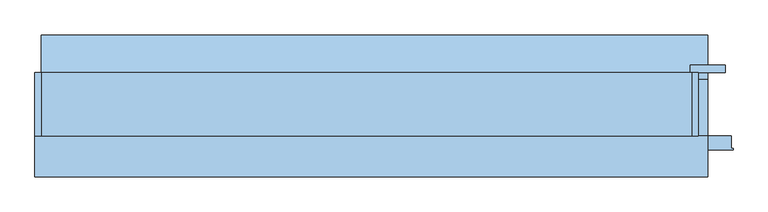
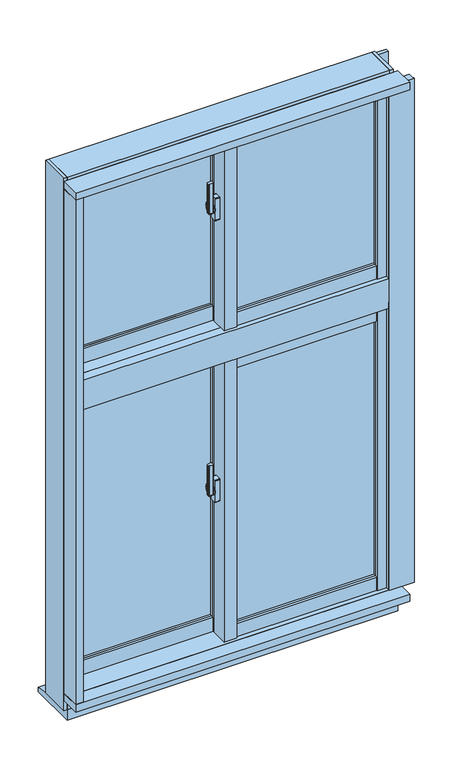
"""IFC4 building model written with IfcOpenShell, lengths in millimetres: window geometry, FNSⅡ100R_非防火_RC枠_段窓 : 引違/引違."""

from ifc_helpers import new_model, si_unit, point, frame, frame_2d, origin, place, context, project, spatial, polyline, circle_curve, trimmed, segment, composite_curve, outline, extrude, faceted_brep, source, transform, mapped, element, save
from ifc_brep_helpers import plane_surface, cylinder_surface, revolved_surface, advanced_brep


def window_982928b0(model_context):
    return source(origin(), model_context, "Body", "SolidModel", [
        extrude(outline(composite_curve([segment(polyline([(-39.0, -20.4), (-39.0, -28.6)]), True, "CONTINUOUS"), segment(trimmed(circle_curve(frame_2d((-41.0, -28.6)), 2.0), [point((-39.0, -28.6))], [point((-41.3606557, -30.5672131))], False, "CARTESIAN"), True, "CONTINUOUS"), segment(polyline([(-41.3606557, -30.5672131), (-52.3606557, -28.5505464)]), True, "CONTINUOUS"), segment(trimmed(circle_curve(frame_2d((-52.0, -26.5833333)), 2.0), [point((-52.3606557, -28.5505464))], [point((-54.0, -26.5833333))], False, "CARTESIAN"), True, "CONTINUOUS"), segment(polyline([(-54.0, -26.5833333), (-54.0, -22.4166667)]), True, "CONTINUOUS"), segment(trimmed(circle_curve(frame_2d((-52.0, -22.4166667)), 2.0), [point((-54.0, -22.4166667))], [point((-52.3606557, -20.4494536))], False, "CARTESIAN"), True, "CONTINUOUS"), segment(polyline([(-52.3606557, -20.4494536), (-41.3606557, -18.4327869)]), True, "CONTINUOUS"), segment(trimmed(circle_curve(frame_2d((-41.0, -20.4)), 2.0), [point((-41.3606557, -18.4327869))], [point((-39.0, -20.4))], False, "CARTESIAN"), True, "CONTINUOUS")], self_intersect=False)), frame((0.0, 0.0, 2340.0), z_axis=(0.0, 0.0, 1.0), x_axis=(1.0, 0.0, 0.0)), (0.0, 0.0, 1.0), 100.0),
        advanced_brep(
        [(-37.5, -16.1765715, 2371.7333311), (-45.5, -16.1765715, 2371.7333311), (-45.5, -16.5648001, 2370.2844424), (-39.0, -16.5648001, 2370.2844424), (-39.0, -18.3765334, 2363.5229616), (-37.5, -18.3765334, 2363.5229616), (-39.0, -18.3533883, 2329.3190372), (-45.5, -18.3533883, 2329.3190372), (-45.5, -18.092916, 2327.8418256), (-37.5, -18.092916, 2327.8418256), (-37.5, -19.5689255, 2336.2126915), (-39.0, -19.5689255, 2336.2126915)],
        [
            (0, 1),
            (1, 2),
            (2, 3),
            (3, 4),
            (4, 5),
            (5, 0),
            (6, 7),
            (7, 8),
            (8, 9),
            (9, 10),
            (10, 11),
            (11, 6),
            (0, 9, circle_curve(frame((-37.5, -22.0, 2350.0), z_axis=(-1.0, 0.0, 0.0), x_axis=(0.0, 0.25881904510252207, 0.965925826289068)), 22.5)),
            (8, 1, circle_curve(frame((-45.5, -22.0, 2350.0), z_axis=(1.0, 0.0, 0.0), x_axis=(0.0, 0.25881904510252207, 0.965925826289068)), 22.5)),
            (7, 2, circle_curve(frame((-45.5, -22.0, 2350.0), z_axis=(1.0, 0.0, 0.0), x_axis=(0.0, 0.25881904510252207, 0.965925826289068)), 21.0)),
            (6, 3, circle_curve(frame((-39.0, -22.0, 2350.0), z_axis=(1.0, 0.0, 0.0), x_axis=(0.0, 0.25881904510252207, 0.965925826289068)), 21.0)),
            (11, 4, circle_curve(frame((-39.0, -22.0, 2350.0), z_axis=(-1.0, 0.0, 0.0), x_axis=(0.0, -1.0, 0.0)), 14.0)),
            (5, 10, circle_curve(frame((-37.5, -22.0, 2350.0), z_axis=(1.0, 0.0, 0.0), x_axis=(0.0, -1.0, 0.0)), 14.0)),
        ],
        [
            plane_surface(frame((-43.5470497, -22.0, 2350.0), z_axis=(0.0, -0.965925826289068, 0.25881904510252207), x_axis=(0.0, 0.25881904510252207, 0.965925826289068))),
            plane_surface(frame((-43.5470497, -22.0, 2350.0), z_axis=(0.0, -0.9848077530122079, -0.17364817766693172), x_axis=(0.0, 0.17364817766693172, -0.9848077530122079))),
            cylinder_surface(frame((-43.5470497, -22.0, 2350.0), z_axis=(-1.0, 0.0, 0.0), x_axis=(0.0, 0.25881904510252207, 0.965925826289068)), 22.5),
            plane_surface(frame((-45.5, -22.0, 2350.0), z_axis=(-1.0, 0.0, 0.0), x_axis=(0.0, 0.25881904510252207, 0.965925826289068))),
            revolved_surface(polyline([(-45.5, -16.564800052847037, 2370.2844423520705), (-39.0, -16.564800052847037, 2370.2844423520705)]), (-43.5470497, -22.0, 2350.0), (-1.0, 0.0, 0.0)),
            plane_surface(frame((-39.0, -22.0, 2350.0), z_axis=(-1.0, 0.0, 0.0), x_axis=(0.0, 0.25881904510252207, 0.965925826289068))),
            plane_surface(frame((-37.5, -22.0, 2350.0), z_axis=(1.0, 0.0, 0.0), x_axis=(0.0, 0.25881904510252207, 0.965925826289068))),
            cylinder_surface(frame((-37.5, -22.0, 2350.0), z_axis=(-1.0, 0.0, 0.0), x_axis=(0.0, -1.0, 0.0)), 14.0),
        ],
        [
            (0, [[1, 2, 3, 4, 5, 6]]),
            (1, [[7, 8, 9, 10, 11, 12]]),
            (2, [[-1, 13, -9, 14]]),
            (3, [[-2, -14, -8, 15]]),
            (4, [[-3, -15, -7, 16]]),
            (5, [[-16, -12, 17, -4]]),
            (6, [[-13, -6, 18, -10]]),
            (7, [[-17, -11, -18, -5]]),
        ],
    ),
        extrude(outline(composite_curve([segment(trimmed(circle_curve(frame_2d((-22.0, 2350.0)), 11.5), [point((-10.5, 2350.0))], [point((-33.5, 2350.0))], False, "CARTESIAN"), True, "CONTINUOUS"), segment(trimmed(circle_curve(frame_2d((-22.0, 2350.0)), 11.5), [point((-33.5, 2350.0))], [point((-10.5, 2350.0))], False, "CARTESIAN"), True, "CONTINUOUS")], self_intersect=False)), frame((-37.5, 0.0, 0.0), z_axis=(1.0, 0.0, 0.0), x_axis=(0.0, 1.0, 0.0)), (0.0, 0.0, 1.0), 2.5),
        extrude(outline(composite_curve([segment(polyline([(-31.0, 2387.5), (-13.0, 2387.5)]), True, "CONTINUOUS"), segment(trimmed(circle_curve(frame_2d((-13.0, 2385.5)), 2.0), [point((-13.0, 2387.5))], [point((-11.0, 2385.5))], False, "CARTESIAN"), True, "CONTINUOUS"), segment(polyline([(-11.0, 2385.5), (-11.0, 2314.5)]), True, "CONTINUOUS"), segment(trimmed(circle_curve(frame_2d((-13.0, 2314.5)), 2.0), [point((-11.0, 2314.5))], [point((-13.0, 2312.5))], False, "CARTESIAN"), True, "CONTINUOUS"), segment(polyline([(-13.0, 2312.5), (-31.0, 2312.5)]), True, "CONTINUOUS"), segment(trimmed(circle_curve(frame_2d((-31.0, 2314.5)), 2.0), [point((-31.0, 2312.5))], [point((-33.0, 2314.5))], False, "CARTESIAN"), True, "CONTINUOUS"), segment(polyline([(-33.0, 2314.5), (-33.0, 2385.5)]), True, "CONTINUOUS"), segment(trimmed(circle_curve(frame_2d((-31.0, 2385.5)), 2.0), [point((-33.0, 2385.5))], [point((-31.0, 2387.5))], False, "CARTESIAN"), True, "CONTINUOUS")], self_intersect=False)), frame((-35.0, 0.0, 0.0), z_axis=(1.0, 0.0, 0.0), x_axis=(0.0, 1.0, 0.0)), (0.0, 0.0, 1.0), 15.0),
        extrude(outline(polyline([(20.0, -31.0), (468.0, -31.0), (468.0, -37.0), (20.0, -37.0), (20.0, -31.0)])), frame((0.0, 0.0, 1998.0), z_axis=(0.0, 0.0, 1.0), x_axis=(1.0, 0.0, 0.0)), (0.0, 0.0, 1.0), 562.0),
        extrude(outline(polyline([(20.0, -13.0), (468.0, -13.0), (468.0, -19.0), (20.0, -19.0), (20.0, -13.0)])), frame((0.0, 0.0, 1998.0), z_axis=(0.0, 0.0, 1.0), x_axis=(1.0, 0.0, 0.0)), (0.0, 0.0, 1.0), 562.0),
        extrude(outline(polyline([(-468.0, 27.0), (-20.0, 27.0), (-20.0, 21.0), (-468.0, 21.0), (-468.0, 27.0)])), frame((0.0, 0.0, 1998.0), z_axis=(0.0, 0.0, 1.0), x_axis=(1.0, 0.0, 0.0)), (0.0, 0.0, 1.0), 562.0),
        extrude(outline(polyline([(-468.0, 45.0), (-20.0, 45.0), (-20.0, 39.0), (-468.0, 39.0), (-468.0, 45.0)])), frame((0.0, 0.0, 1998.0), z_axis=(0.0, 0.0, 1.0), x_axis=(1.0, 0.0, 0.0)), (0.0, 0.0, 1.0), 562.0),
        faceted_brep([(-500.0, 24.0, 2600.0), (-489.5, 24.0, 2600.0), (-489.5, 11.0, 2600.0), (-468.0, 11.0, 2600.0), (-468.0, 53.0, 2600.0), (-500.0, 53.0, 2600.0), (-468.0, 24.0, 1910.0), (-500.0, 24.0, 1910.0), (-500.0, 53.0, 1910.0), (-468.0, 53.0, 1910.0), (-468.0, 24.0, 1950.0), (-489.5, 24.0, 1950.0), (-489.5, 11.0, 1950.0), (-468.0, 11.0, 1950.0)], [[[0, 1, 2, 3, 4, 5]], [[6, 7, 8, 9]], [[1, 0, 7, 6, 10, 11]], [[2, 1, 11, 12]], [[3, 2, 12, 13]], [[4, 3, 13, 10, 6, 9]], [[5, 4, 9, 8]], [[7, 0, 5, 8]], [[11, 10, 13, 12]]]),
        faceted_brep([(-20.0, 10.5, 2600.0), (-1.8, 10.5, 2600.0), (-1.8, -1.9, 2600.0), (20.0, -1.9, 2600.0), (20.0, 53.0, 2600.0), (-20.0, 53.0, 2600.0), (-20.0, 53.0, 1910.0), (20.0, 53.0, 1910.0), (20.0, 24.0, 1910.0), (-20.0, 24.0, 1910.0), (-20.0, 10.5, 1950.0), (-1.8, 10.5, 1950.0), (-1.8, -1.9, 1950.0), (20.0, -1.9, 1950.0), (20.0, 24.0, 1950.0), (-20.0, 24.0, 1950.0)], [[[0, 1, 2, 3, 4, 5]], [[6, 7, 8, 9]], [[1, 0, 10, 11]], [[2, 1, 11, 12]], [[3, 2, 12, 13]], [[4, 3, 13, 14, 8, 7]], [[5, 4, 7, 6]], [[0, 5, 6, 9, 15, 10]], [[14, 15, 9, 8]], [[15, 14, 13, 12, 11, 10]]]),
        extrude(outline(polyline([(-20.0, -1.9), (-15.0, -1.9), (-15.0, -47.0), (15.0, -47.0), (15.0, -43.0), (20.0, -43.0), (20.0, -55.0), (-20.0, -55.0), (-20.0, -1.9)])), frame((0.0, 0.0, 1950.0), z_axis=(0.0, 0.0, 1.0), x_axis=(1.0, 0.0, 0.0)), (0.0, 0.0, 1.0), 650.0),
        extrude(outline(polyline([(-15.0, -1.9), (20.0, -1.9), (20.0, -43.0), (15.0, -43.0), (15.0, -47.0), (-15.0, -47.0), (-15.0, -1.9)])), frame((0.0, 0.0, 1950.0), z_axis=(0.0, 0.0, 1.0), x_axis=(1.0, 0.0, 0.0)), (0.0, 0.0, 1.0), 650.0),
        extrude(outline(polyline([(468.0, -55.0), (468.0, -47.0), (489.5, -47.0), (489.5, -34.0), (497.0, -34.0), (497.0, -55.0), (468.0, -55.0)])), frame((0.0, 0.0, 1953.0), z_axis=(0.0, 0.0, 1.0), x_axis=(1.0, 0.0, 0.0)), (0.0, 0.0, 1.0), 647.0),
        extrude(outline(polyline([(468.0, -5.0), (500.0, -5.0), (500.0, -34.0), (489.5, -34.0), (489.5, -47.0), (468.0, -47.0), (468.0, -5.0)])), frame((0.0, 0.0, 1950.0), z_axis=(0.0, 0.0, 1.0), x_axis=(1.0, 0.0, 0.0)), (0.0, 0.0, 1.0), 650.0),
        extrude(outline(polyline([(-1.85, 10.5), (-1.85, 3.0), (-20.0, 3.0), (-20.0, 10.5), (-1.85, 10.5)])), frame((0.0, 0.0, 1950.0), z_axis=(0.0, 0.0, 1.0), x_axis=(1.0, 0.0, 0.0)), (0.0, 0.0, 1.0), 650.0),
        extrude(outline(polyline([(-497.0, 24.0), (-489.5, 24.0), (-489.5, 11.0), (-468.0, 11.0), (-468.0, 3.0), (-497.0, 3.0), (-497.0, 24.0)])), frame((0.0, 0.0, 1950.0), z_axis=(0.0, 0.0, 1.0), x_axis=(1.0, 0.0, 0.0)), (0.0, 0.0, 1.0), 650.0),
        extrude(outline(polyline([(-53.0, 1953.0), (-53.0, 1998.0), (-45.0, 1998.0), (-45.0, 1975.5), (-34.0, 1975.5), (-34.0, 1953.0), (-53.0, 1953.0)])), frame((20.0, 0.0, 0.0), z_axis=(1.0, 0.0, 0.0), x_axis=(0.0, 1.0, 0.0)), (0.0, 0.0, 1.0), 448.0),
        extrude(outline(polyline([(-5.0, 1950.0), (-34.0, 1950.0), (-34.0, 1975.5), (-45.0, 1975.5), (-45.0, 1998.0), (-5.0, 1998.0), (-5.0, 1950.0)])), frame((20.0, 0.0, 0.0), z_axis=(1.0, 0.0, 0.0), x_axis=(0.0, 1.0, 0.0)), (0.0, 0.0, 1.0), 448.0),
        extrude(outline(polyline([(5.0, 1998.0), (13.0, 1998.0), (13.0, 1975.5), (24.0, 1975.5), (24.0, 1950.0), (5.0, 1950.0), (5.0, 1998.0)])), frame((-468.0, 0.0, 0.0), z_axis=(1.0, 0.0, 0.0), x_axis=(0.0, 1.0, 0.0)), (0.0, 0.0, 1.0), 448.0),
        extrude(outline(polyline([(53.0, 1910.0), (24.0, 1910.0), (24.0, 1975.5), (13.0, 1975.5), (13.0, 1998.0), (53.0, 1998.0), (53.0, 1910.0)])), frame((-468.0, 0.0, 0.0), z_axis=(1.0, 0.0, 0.0), x_axis=(0.0, 1.0, 0.0)), (0.0, 0.0, 1.0), 448.0),
        extrude(outline(polyline([(-32.0, 2580.5), (-45.0, 2580.5), (-45.0, 2560.0), (-53.0, 2560.0), (-53.0, 2600.0), (-32.0, 2600.0), (-32.0, 2580.5)])), frame((20.0, 0.0, 0.0), z_axis=(1.0, 0.0, 0.0), x_axis=(0.0, 1.0, 0.0)), (0.0, 0.0, 1.0), 448.0),
        extrude(outline(polyline([(-5.0, 2600.0), (-5.0, 2560.0), (-45.0, 2560.0), (-45.0, 2580.5), (-32.0, 2580.5), (-32.0, 2600.0), (-5.0, 2600.0)])), frame((20.0, 0.0, 0.0), z_axis=(1.0, 0.0, 0.0), x_axis=(0.0, 1.0, 0.0)), (0.0, 0.0, 1.0), 448.0),
        extrude(outline(polyline([(26.0, 2580.5), (13.0, 2580.5), (13.0, 2560.0), (5.0, 2560.0), (5.0, 2600.0), (26.0, 2600.0), (26.0, 2580.5)])), frame((-468.0, 0.0, 0.0), z_axis=(1.0, 0.0, 0.0), x_axis=(0.0, 1.0, 0.0)), (0.0, 0.0, 1.0), 448.0),
        extrude(outline(polyline([(53.0, 2600.0), (53.0, 2560.0), (13.0, 2560.0), (13.0, 2580.5), (26.0, 2580.5), (26.0, 2600.0), (53.0, 2600.0)])), frame((-468.0, 0.0, 0.0), z_axis=(1.0, 0.0, 0.0), x_axis=(0.0, 1.0, 0.0)), (0.0, 0.0, 1.0), 448.0),
        faceted_brep([(500.0, -65.0, 900.0), (500.0, -40.5, 900.0), (515.0, -40.5, 900.0), (515.0, -45.0, 900.0), (503.0, -45.0, 900.0), (503.0, -65.0, 900.0), (500.0, -65.0, 1870.0), (500.0, -40.5, 1870.0), (515.0, -40.5, 1870.0), (515.0, -45.0, 1870.0), (503.0, -45.0, 1870.0), (503.0, -65.0, 1870.0)], [[[0, 1, 2, 3, 4, 5]], [[1, 0, 6, 7]], [[2, 1, 7, 8]], [[3, 2, 8, 9]], [[4, 3, 9, 10]], [[5, 4, 10, 11]], [[0, 5, 11, 6]], [[6, 11, 10, 9, 8, 7]]]),
        faceted_brep([(500.0, -45.0, 2620.0), (500.0, -40.5, 2620.0), (500.0, -40.5, 1950.0), (500.0, -65.0, 1950.0), (500.0, -65.0, 2603.0), (500.0, -45.0, 2603.0), (515.0, -40.5, 2620.0), (515.0, -40.5, 1950.0), (515.0, -45.0, 2620.0), (515.0, -45.0, 1950.0), (503.0, -45.0, 2603.0), (503.0, -45.0, 1950.0), (503.0, -65.0, 2603.0), (503.0, -65.0, 1950.0)], [[[0, 1, 2, 3, 4, 5]], [[1, 6, 7, 2]], [[6, 8, 9, 7]], [[5, 10, 11, 9, 8, 0]], [[10, 12, 13, 11]], [[12, 4, 3, 13]], [[8, 6, 1, 0]], [[10, 5, 4, 12]], [[13, 3, 2, 7, 9, 11]]]),
        faceted_brep([(515.0, 55.0, 840.0), (515.0, 55.0, 849.0), (515.0, 21.0, 849.0), (515.0, 21.0, 884.0), (515.0, -45.0, 884.0), (515.0, -45.0, 840.0), (-515.0, 55.0, 840.0), (-515.0, 55.0, 849.0), (-515.0, 21.0, 849.0), (-515.0, 21.0, 884.0), (-515.0, -45.0, 884.0), (500.0, -17.75, 884.0), (500.0, -36.2, 884.0), (-15.0, -36.2, 884.0), (-15.0, -17.75, 884.0), (-515.0, -45.0, 840.0), (500.0, -36.2, 900.0), (500.0, -17.75, 900.0), (-15.0, -36.2, 900.0), (-15.0, -17.75, 900.0)], [[[0, 1, 2, 3, 4, 5]], [[1, 0, 6, 7]], [[2, 1, 7, 8]], [[3, 2, 8, 9]], [[4, 3, 9, 10], [11, 12, 13, 14]], [[5, 4, 10, 15]], [[0, 5, 15, 6]], [[6, 15, 10, 9, 8, 7]], [[16, 12, 11, 17]], [[12, 16, 18, 13]], [[18, 19, 14, 13]], [[17, 11, 14, 19]], [[16, 17, 19, 18]]]),
        faceted_brep([(500.0, -36.2, 1950.0), (500.0, -36.2, 1934.0), (500.0, -17.75, 1934.0), (500.0, -17.75, 1950.0), (-15.0, -36.2, 1950.0), (-15.0, -17.75, 1950.0), (-15.0, -17.75, 1934.0), (-15.0, -36.2, 1934.0)], [[[0, 1, 2, 3]], [[4, 5, 6, 7]], [[1, 0, 4, 7]], [[2, 1, 7, 6]], [[3, 2, 6, 5]], [[0, 3, 5, 4]]]),
        faceted_brep([(-515.0, -45.0, 900.0), (-515.0, 21.0, 900.0), (-500.0, 21.0, 900.0), (-500.0, -65.0, 900.0), (-503.0, -65.0, 900.0), (-503.0, -45.0, 900.0), (-515.0, -45.0, 1870.0), (-515.0, 21.0, 1870.0), (-500.0, 21.0, 1870.0), (-500.0, -65.0, 1870.0), (-503.0, -65.0, 1870.0), (-503.0, -45.0, 1870.0)], [[[0, 1, 2, 3, 4, 5]], [[1, 0, 6, 7]], [[2, 1, 7, 8]], [[3, 2, 8, 9]], [[4, 3, 9, 10]], [[5, 4, 10, 11]], [[0, 5, 11, 6]], [[6, 11, 10, 9, 8, 7]]]),
        faceted_brep([(-515.0, -45.0, 2620.0), (-515.0, 21.0, 2620.0), (-515.0, 21.0, 1950.0), (-515.0, -45.0, 1950.0), (-500.0, 21.0, 2620.0), (-500.0, 21.0, 1950.0), (-500.0, -45.0, 2620.0), (-500.0, -45.0, 2603.0), (-500.0, -65.0, 2603.0), (-500.0, -65.0, 1950.0), (-503.0, -65.0, 2603.0), (-503.0, -65.0, 1950.0), (-503.0, -45.0, 2603.0), (-503.0, -45.0, 1950.0)], [[[0, 1, 2, 3]], [[1, 4, 5, 2]], [[4, 6, 7, 8, 9, 5]], [[8, 10, 11, 9]], [[10, 12, 13, 11]], [[12, 7, 6, 0, 3, 13]], [[4, 1, 0, 6]], [[7, 12, 10, 8]], [[13, 3, 2, 5, 9, 11]]]),
        faceted_brep([(-525.0, 55.0, 840.0), (-515.0, 55.0, 840.0), (-515.0, -45.0, 840.0), (-525.0, -45.0, 840.0), (-525.0, 55.0, 2635.0), (-515.0, 55.0, 2635.0), (-515.0, 55.0, 2600.0), (-500.0, 55.0, 2600.0), (-500.0, 55.0, 1899.0), (-515.0, 55.0, 1899.0), (-515.0, 55.0, 1850.0), (-500.0, 55.0, 1850.0), (-500.0, 55.0, 849.0), (-515.0, 55.0, 849.0), (-515.0, -45.0, 2635.0), (-515.0, 21.0, 849.0), (-515.0, 21.0, 1850.0), (-515.0, 21.0, 1899.0), (-515.0, 21.0, 2600.0), (-525.0, -45.0, 2635.0), (-500.0, 21.0, 849.0), (-500.0, 21.0, 1850.0), (-500.0, 21.0, 2600.0), (-500.0, 21.0, 1899.0)], [[[0, 1, 2, 3]], [[4, 5, 6, 7, 8, 9, 10, 11, 12, 13, 1, 0]], [[5, 14, 2, 1, 13, 15, 16, 10, 9, 17, 18, 6]], [[14, 19, 3, 2]], [[19, 4, 0, 3]], [[12, 20, 15, 13]], [[21, 16, 15, 20]], [[11, 21, 20, 12]], [[4, 19, 14, 5]], [[11, 10, 16, 21]], [[7, 6, 18, 22]], [[8, 23, 17, 9]], [[22, 18, 17, 23]], [[7, 22, 23, 8]]]),
        faceted_brep([(515.0, -45.0, 840.0), (515.0, 55.0, 840.0), (525.0, 55.0, 840.0), (525.0, -45.0, 840.0), (515.0, -45.0, 2635.0), (515.0, 55.0, 2635.0), (515.0, 55.0, 2600.0), (515.0, -40.5, 2600.0), (515.0, -40.5, 1899.0), (515.0, 55.0, 1899.0), (515.0, 55.0, 1850.0), (515.0, -40.5, 1850.0), (515.0, -40.5, 849.0), (515.0, 55.0, 849.0), (525.0, 55.0, 2635.0), (500.0, 55.0, 849.0), (500.0, 55.0, 1850.0), (500.0, 55.0, 1899.0), (500.0, 55.0, 2600.0), (525.0, -45.0, 2635.0), (500.0, -40.5, 849.0), (500.0, -40.5, 1850.0), (500.0, -40.5, 2600.0), (500.0, -40.5, 1899.0)], [[[0, 1, 2, 3]], [[4, 5, 6, 7, 8, 9, 10, 11, 12, 13, 1, 0]], [[5, 14, 2, 1, 13, 15, 16, 10, 9, 17, 18, 6]], [[14, 19, 3, 2]], [[19, 4, 0, 3]], [[20, 15, 13, 12]], [[21, 16, 15, 20]], [[11, 21, 20, 12]], [[4, 19, 14, 5]], [[21, 11, 10, 16]], [[22, 7, 6, 18]], [[23, 17, 9, 8]], [[7, 22, 23, 8]], [[22, 18, 17, 23]]]),
        faceted_brep([(503.0, -65.0, 900.0), (503.0, -65.0, 897.0), (503.0, -45.0, 897.0), (503.0, -45.0, 884.0), (503.0, -40.5, 884.0), (503.0, -40.5, 900.0), (-503.0, -45.0, 884.0), (-503.0, -45.0, 897.0), (-503.0, -65.0, 897.0), (-503.0, -65.0, 900.0), (-503.0, -36.2, 900.0), (-503.0, -36.2, 884.0), (500.0, -40.5, 900.0), (500.0, -36.2, 900.0), (-15.0, -36.2, 900.0), (-15.0, 21.0, 900.0), (-500.0, 21.0, 900.0), (-500.0, -36.2, 900.0), (-500.0, -36.2, 884.0), (500.0, -36.2, 884.0), (-15.0, -36.2, 884.0), (-500.0, 21.0, 884.0), (-15.0, 21.0, 884.0), (500.0, -40.5, 884.0)], [[[0, 1, 2, 3, 4, 5]], [[6, 7, 8, 9, 10, 11]], [[3, 2, 7, 6]], [[2, 1, 8, 7]], [[1, 0, 9, 8]], [[10, 9, 0, 5, 12, 13, 14, 15, 16, 17]], [[11, 10, 17, 18]], [[13, 19, 20, 14]], [[6, 11, 18, 21, 22, 20, 19, 23, 4, 3]], [[12, 23, 19, 13]], [[23, 12, 5, 4]], [[15, 14, 20, 22]], [[16, 21, 18, 17]], [[15, 22, 21, 16]]]),
        faceted_brep([(500.0, -23.1, 2600.0), (500.0, -23.1, 2625.0), (500.0, -45.0, 2625.0), (500.0, -45.0, 2603.0), (500.0, -65.0, 2603.0), (500.0, -65.0, 2600.0), (-500.0, -23.1, 2600.0), (-500.0, -65.0, 2600.0), (-500.0, -65.0, 2603.0), (-500.0, -45.0, 2603.0), (-500.0, -45.0, 2625.0), (-500.0, -23.1, 2625.0)], [[[0, 1, 2, 3, 4, 5]], [[6, 7, 8, 9, 10, 11]], [[1, 0, 6, 11]], [[2, 1, 11, 10]], [[3, 2, 10, 9]], [[4, 3, 9, 8]], [[5, 4, 8, 7]], [[0, 5, 7, 6]]]),
        faceted_brep([(500.0, -23.1, 1875.0), (500.0, -45.0, 1875.0), (500.0, -45.0, 1934.0), (500.0, -36.2, 1934.0), (500.0, -36.2, 1950.0), (500.0, -65.0, 1950.0), (500.0, -65.0, 1870.0), (500.0, -65.0, 1850.0), (500.0, -23.1, 1850.0), (500.0, -23.1, 1870.0), (-500.0, -23.1, 1850.0), (-500.0, -65.0, 1850.0), (-500.0, -65.0, 1870.0), (-500.0, -65.0, 1950.0), (-500.0, -36.2, 1950.0), (-500.0, -36.2, 1934.0), (-500.0, -45.0, 1934.0), (-500.0, -45.0, 1875.0), (-500.0, -23.1, 1875.0), (-500.0, -23.1, 1870.0)], [[[0, 1, 2, 3, 4, 5, 6, 7, 8, 9]], [[10, 11, 12, 13, 14, 15, 16, 17, 18, 19]], [[8, 10, 19, 18, 0, 9]], [[1, 0, 18, 17]], [[5, 13, 12, 11, 7, 6]], [[8, 7, 11, 10]], [[2, 1, 17, 16]], [[3, 2, 16, 15]], [[4, 3, 15, 14]], [[5, 4, 14, 13]]]),
        extrude(outline(polyline([(-15.0, 25.3), (-15.0, -23.1), (-500.0, -23.1), (-500.0, 25.3), (-15.0, 25.3)])), frame((0.0, 0.0, 2600.0), z_axis=(0.0, 0.0, 1.0), x_axis=(1.0, 0.0, 0.0)), (0.0, 0.0, 1.0), 25.0),
        extrude(outline(polyline([(-15.0, 21.0), (-15.0, -36.2), (-500.0, -36.2), (-500.0, 21.0), (-15.0, 21.0)])), frame((0.0, 0.0, 1934.0), z_axis=(0.0, 0.0, 1.0), x_axis=(1.0, 0.0, 0.0)), (0.0, 0.0, 1.0), 16.0),
        extrude(outline(polyline([(-15.0, 25.3), (-15.0, -23.1), (-500.0, -23.1), (-500.0, 25.3), (-15.0, 25.3)])), frame((0.0, 0.0, 1850.0), z_axis=(0.0, 0.0, 1.0), x_axis=(1.0, 0.0, 0.0)), (0.0, 0.0, 1.0), 25.0),
        faceted_brep([(515.0, 55.0, 2600.0), (515.0, 55.0, 2635.0), (515.0, -45.0, 2635.0), (515.0, -45.0, 2625.0), (515.0, 25.3, 2625.0), (515.0, 25.3, 2600.0), (-515.0, 55.0, 2600.0), (-515.0, 25.3, 2600.0), (-515.0, 25.3, 2625.0), (-515.0, -45.0, 2625.0), (-515.0, -45.0, 2635.0), (-515.0, 55.0, 2635.0), (-15.0, 25.3, 2625.0), (-15.0, -23.1, 2625.0), (500.0, -23.1, 2625.0), (500.0, 25.3, 2625.0), (500.0, 25.3, 2600.0), (-15.0, 25.3, 2600.0), (500.0, -23.1, 2600.0), (-15.0, -23.1, 2600.0)], [[[0, 1, 2, 3, 4, 5]], [[6, 7, 8, 9, 10, 11]], [[1, 0, 6, 11]], [[2, 1, 11, 10]], [[3, 2, 10, 9]], [[4, 3, 9, 8, 12, 13, 14, 15]], [[5, 4, 15, 16]], [[8, 7, 17, 12]], [[0, 5, 16, 18, 19, 17, 7, 6]], [[14, 18, 16, 15]], [[17, 19, 13, 12]], [[18, 14, 13, 19]]]),
        faceted_brep([(515.0, 55.0, 1850.0), (515.0, 55.0, 1899.0), (515.0, 21.0, 1899.0), (515.0, 21.0, 1934.0), (515.0, -45.0, 1934.0), (515.0, -45.0, 1875.0), (515.0, 25.3, 1875.0), (515.0, 25.3, 1850.0), (-515.0, 55.0, 1850.0), (-515.0, 25.3, 1850.0), (-515.0, 25.3, 1875.0), (-515.0, -45.0, 1875.0), (-515.0, -45.0, 1934.0), (-515.0, 21.0, 1934.0), (-515.0, 21.0, 1899.0), (-515.0, 55.0, 1899.0), (500.0, -23.1, 1850.0), (500.0, 25.3, 1850.0), (500.0, 25.3, 1870.0), (500.0, 25.3, 1875.0), (500.0, -23.1, 1875.0), (500.0, -23.1, 1870.0), (-15.0, 25.3, 1850.0), (-15.0, -23.1, 1850.0), (-15.0, -23.1, 1875.0), (-15.0, 25.3, 1875.0)], [[[0, 1, 2, 3, 4, 5, 6, 7]], [[8, 9, 10, 11, 12, 13, 14, 15]], [[16, 17, 18, 19, 20, 21]], [[22, 23, 24, 25]], [[1, 0, 8, 15]], [[2, 1, 15, 14]], [[3, 2, 14, 13]], [[4, 3, 13, 12]], [[5, 4, 12, 11]], [[6, 5, 11, 10, 25, 24, 20, 19]], [[7, 6, 19, 18, 17]], [[10, 9, 22, 25]], [[0, 7, 17, 16, 23, 22, 9, 8]], [[24, 23, 16, 21, 20]]]),
        extrude(outline(composite_curve([segment(polyline([(-39.0, -20.4), (-39.0, -28.6)]), True, "CONTINUOUS"), segment(trimmed(circle_curve(frame_2d((-41.0, -28.6)), 2.0), [point((-39.0, -28.6))], [point((-41.3606557, -30.5672131))], False, "CARTESIAN"), True, "CONTINUOUS"), segment(polyline([(-41.3606557, -30.5672131), (-52.3606557, -28.5505464)]), True, "CONTINUOUS"), segment(trimmed(circle_curve(frame_2d((-52.0, -26.5833333)), 2.0), [point((-52.3606557, -28.5505464))], [point((-54.0, -26.5833333))], False, "CARTESIAN"), True, "CONTINUOUS"), segment(polyline([(-54.0, -26.5833333), (-54.0, -22.4166667)]), True, "CONTINUOUS"), segment(trimmed(circle_curve(frame_2d((-52.0, -22.4166667)), 2.0), [point((-54.0, -22.4166667))], [point((-52.3606557, -20.4494536))], False, "CARTESIAN"), True, "CONTINUOUS"), segment(polyline([(-52.3606557, -20.4494536), (-41.3606557, -18.4327869)]), True, "CONTINUOUS"), segment(trimmed(circle_curve(frame_2d((-41.0, -20.4)), 2.0), [point((-41.3606557, -18.4327869))], [point((-39.0, -20.4))], False, "CARTESIAN"), True, "CONTINUOUS")], self_intersect=False)), frame((0.0, 0.0, 1390.0), z_axis=(0.0, 0.0, 1.0), x_axis=(1.0, 0.0, 0.0)), (0.0, 0.0, 1.0), 100.0),
        advanced_brep(
        [(-37.5, -16.1765715, 1421.7333311), (-45.5, -16.1765715, 1421.7333311), (-45.5, -16.5648001, 1420.2844424), (-39.0, -16.5648001, 1420.2844424), (-39.0, -18.3765334, 1413.5229616), (-37.5, -18.3765334, 1413.5229616), (-39.0, -18.3533883, 1379.3190372), (-45.5, -18.3533883, 1379.3190372), (-45.5, -18.092916, 1377.8418256), (-37.5, -18.092916, 1377.8418256), (-37.5, -19.5689255, 1386.2126915), (-39.0, -19.5689255, 1386.2126915)],
        [
            (0, 1),
            (1, 2),
            (2, 3),
            (3, 4),
            (4, 5),
            (5, 0),
            (6, 7),
            (7, 8),
            (8, 9),
            (9, 10),
            (10, 11),
            (11, 6),
            (0, 9, circle_curve(frame((-37.5, -22.0, 1400.0), z_axis=(-1.0, 0.0, 0.0), x_axis=(0.0, 0.25881904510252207, 0.965925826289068)), 22.5)),
            (8, 1, circle_curve(frame((-45.5, -22.0, 1400.0), z_axis=(1.0, 0.0, 0.0), x_axis=(0.0, 0.25881904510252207, 0.965925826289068)), 22.5)),
            (7, 2, circle_curve(frame((-45.5, -22.0, 1400.0), z_axis=(1.0, 0.0, 0.0), x_axis=(0.0, 0.25881904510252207, 0.965925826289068)), 21.0)),
            (6, 3, circle_curve(frame((-39.0, -22.0, 1400.0), z_axis=(1.0, 0.0, 0.0), x_axis=(0.0, 0.25881904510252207, 0.965925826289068)), 21.0)),
            (11, 4, circle_curve(frame((-39.0, -22.0, 1400.0), z_axis=(-1.0, 0.0, 0.0), x_axis=(0.0, -1.0, 0.0)), 14.0)),
            (5, 10, circle_curve(frame((-37.5, -22.0, 1400.0), z_axis=(1.0, 0.0, 0.0), x_axis=(0.0, -1.0, 0.0)), 14.0)),
        ],
        [
            plane_surface(frame((-43.5470497, -22.0, 1400.0), z_axis=(0.0, -0.965925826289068, 0.25881904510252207), x_axis=(0.0, 0.25881904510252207, 0.965925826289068))),
            plane_surface(frame((-43.5470497, -22.0, 1400.0), z_axis=(0.0, -0.9848077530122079, -0.17364817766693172), x_axis=(0.0, 0.17364817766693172, -0.9848077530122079))),
            cylinder_surface(frame((-43.5470497, -22.0, 1400.0), z_axis=(-1.0, 0.0, 0.0), x_axis=(0.0, 0.25881904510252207, 0.965925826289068)), 22.5),
            plane_surface(frame((-45.5, -22.0, 1400.0), z_axis=(-1.0, 0.0, 0.0), x_axis=(0.0, 0.25881904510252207, 0.965925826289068))),
            revolved_surface(polyline([(-45.5, -16.564800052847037, 1420.2844423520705), (-39.0, -16.564800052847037, 1420.2844423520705)]), (-43.5470497, -22.0, 1400.0), (-1.0, 0.0, 0.0)),
            plane_surface(frame((-39.0, -22.0, 1400.0), z_axis=(-1.0, 0.0, 0.0), x_axis=(0.0, 0.25881904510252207, 0.965925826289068))),
            plane_surface(frame((-37.5, -22.0, 1400.0), z_axis=(1.0, 0.0, 0.0), x_axis=(0.0, 0.25881904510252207, 0.965925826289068))),
            cylinder_surface(frame((-37.5, -22.0, 1400.0), z_axis=(-1.0, 0.0, 0.0), x_axis=(0.0, -1.0, 0.0)), 14.0),
        ],
        [
            (0, [[1, 2, 3, 4, 5, 6]]),
            (1, [[7, 8, 9, 10, 11, 12]]),
            (2, [[-1, 13, -9, 14]]),
            (3, [[-2, -14, -8, 15]]),
            (4, [[-3, -15, -7, 16]]),
            (5, [[-16, -12, 17, -4]]),
            (6, [[-13, -6, 18, -10]]),
            (7, [[-17, -11, -18, -5]]),
        ],
    ),
        extrude(outline(composite_curve([segment(trimmed(circle_curve(frame_2d((-22.0, 1400.0)), 11.5), [point((-10.5, 1400.0))], [point((-33.5, 1400.0))], False, "CARTESIAN"), True, "CONTINUOUS"), segment(trimmed(circle_curve(frame_2d((-22.0, 1400.0)), 11.5), [point((-33.5, 1400.0))], [point((-10.5, 1400.0))], False, "CARTESIAN"), True, "CONTINUOUS")], self_intersect=False)), frame((-37.5, 0.0, 0.0), z_axis=(1.0, 0.0, 0.0), x_axis=(0.0, 1.0, 0.0)), (0.0, 0.0, 1.0), 2.5),
        extrude(outline(composite_curve([segment(polyline([(-31.0, 1437.5), (-13.0, 1437.5)]), True, "CONTINUOUS"), segment(trimmed(circle_curve(frame_2d((-13.0, 1435.5)), 2.0), [point((-13.0, 1437.5))], [point((-11.0, 1435.5))], False, "CARTESIAN"), True, "CONTINUOUS"), segment(polyline([(-11.0, 1435.5), (-11.0, 1364.5)]), True, "CONTINUOUS"), segment(trimmed(circle_curve(frame_2d((-13.0, 1364.5)), 2.0), [point((-11.0, 1364.5))], [point((-13.0, 1362.5))], False, "CARTESIAN"), True, "CONTINUOUS"), segment(polyline([(-13.0, 1362.5), (-31.0, 1362.5)]), True, "CONTINUOUS"), segment(trimmed(circle_curve(frame_2d((-31.0, 1364.5)), 2.0), [point((-31.0, 1362.5))], [point((-33.0, 1364.5))], False, "CARTESIAN"), True, "CONTINUOUS"), segment(polyline([(-33.0, 1364.5), (-33.0, 1435.5)]), True, "CONTINUOUS"), segment(trimmed(circle_curve(frame_2d((-31.0, 1435.5)), 2.0), [point((-33.0, 1435.5))], [point((-31.0, 1437.5))], False, "CARTESIAN"), True, "CONTINUOUS")], self_intersect=False)), frame((-35.0, 0.0, 0.0), z_axis=(1.0, 0.0, 0.0), x_axis=(0.0, 1.0, 0.0)), (0.0, 0.0, 1.0), 15.0),
        extrude(outline(polyline([(20.0, -31.0), (468.0, -31.0), (468.0, -37.0), (20.0, -37.0), (20.0, -31.0)])), frame((0.0, 0.0, 948.0), z_axis=(0.0, 0.0, 1.0), x_axis=(1.0, 0.0, 0.0)), (0.0, 0.0, 1.0), 862.0),
        extrude(outline(polyline([(20.0, -13.0), (468.0, -13.0), (468.0, -19.0), (20.0, -19.0), (20.0, -13.0)])), frame((0.0, 0.0, 948.0), z_axis=(0.0, 0.0, 1.0), x_axis=(1.0, 0.0, 0.0)), (0.0, 0.0, 1.0), 862.0),
        extrude(outline(polyline([(-468.0, 27.0), (-20.0, 27.0), (-20.0, 21.0), (-468.0, 21.0), (-468.0, 27.0)])), frame((0.0, 0.0, 948.0), z_axis=(0.0, 0.0, 1.0), x_axis=(1.0, 0.0, 0.0)), (0.0, 0.0, 1.0), 862.0),
        extrude(outline(polyline([(-468.0, 45.0), (-20.0, 45.0), (-20.0, 39.0), (-468.0, 39.0), (-468.0, 45.0)])), frame((0.0, 0.0, 948.0), z_axis=(0.0, 0.0, 1.0), x_axis=(1.0, 0.0, 0.0)), (0.0, 0.0, 1.0), 862.0),
        faceted_brep([(-500.0, 24.0, 1850.0), (-489.5, 24.0, 1850.0), (-489.5, 11.0, 1850.0), (-468.0, 11.0, 1850.0), (-468.0, 53.0, 1850.0), (-500.0, 53.0, 1850.0), (-468.0, 24.0, 860.0), (-500.0, 24.0, 860.0), (-500.0, 53.0, 860.0), (-468.0, 53.0, 860.0), (-468.0, 24.0, 900.0), (-489.5, 24.0, 900.0), (-489.5, 11.0, 900.0), (-468.0, 11.0, 900.0)], [[[0, 1, 2, 3, 4, 5]], [[6, 7, 8, 9]], [[1, 0, 7, 6, 10, 11]], [[2, 1, 11, 12]], [[3, 2, 12, 13]], [[4, 3, 13, 10, 6, 9]], [[5, 4, 9, 8]], [[7, 0, 5, 8]], [[11, 10, 13, 12]]]),
        faceted_brep([(-20.0, 10.5, 1850.0), (-1.8, 10.5, 1850.0), (-1.8, -1.9, 1850.0), (20.0, -1.9, 1850.0), (20.0, 53.0, 1850.0), (-20.0, 53.0, 1850.0), (-20.0, 53.0, 860.0), (20.0, 53.0, 860.0), (20.0, 24.0, 860.0), (-20.0, 24.0, 860.0), (-20.0, 10.5, 900.0), (-1.8, 10.5, 900.0), (-1.8, -1.9, 900.0), (20.0, -1.9, 900.0), (20.0, 24.0, 900.0), (-20.0, 24.0, 900.0)], [[[0, 1, 2, 3, 4, 5]], [[6, 7, 8, 9]], [[1, 0, 10, 11]], [[2, 1, 11, 12]], [[3, 2, 12, 13]], [[4, 3, 13, 14, 8, 7]], [[5, 4, 7, 6]], [[0, 5, 6, 9, 15, 10]], [[14, 15, 9, 8]], [[15, 14, 13, 12, 11, 10]]]),
        extrude(outline(polyline([(-20.0, -1.9), (-15.0, -1.9), (-15.0, -47.0), (15.0, -47.0), (15.0, -43.0), (20.0, -43.0), (20.0, -55.0), (-20.0, -55.0), (-20.0, -1.9)])), frame((0.0, 0.0, 900.0), z_axis=(0.0, 0.0, 1.0), x_axis=(1.0, 0.0, 0.0)), (0.0, 0.0, 1.0), 950.0),
        extrude(outline(polyline([(-15.0, -1.9), (20.0, -1.9), (20.0, -43.0), (15.0, -43.0), (15.0, -47.0), (-15.0, -47.0), (-15.0, -1.9)])), frame((0.0, 0.0, 900.0), z_axis=(0.0, 0.0, 1.0), x_axis=(1.0, 0.0, 0.0)), (0.0, 0.0, 1.0), 950.0),
        extrude(outline(polyline([(468.0, -55.0), (468.0, -47.0), (489.5, -47.0), (489.5, -34.0), (497.0, -34.0), (497.0, -55.0), (468.0, -55.0)])), frame((0.0, 0.0, 903.0), z_axis=(0.0, 0.0, 1.0), x_axis=(1.0, 0.0, 0.0)), (0.0, 0.0, 1.0), 947.0),
        extrude(outline(polyline([(468.0, -5.0), (500.0, -5.0), (500.0, -34.0), (489.5, -34.0), (489.5, -47.0), (468.0, -47.0), (468.0, -5.0)])), frame((0.0, 0.0, 900.0), z_axis=(0.0, 0.0, 1.0), x_axis=(1.0, 0.0, 0.0)), (0.0, 0.0, 1.0), 950.0),
        extrude(outline(polyline([(-1.85, 10.5), (-1.85, 3.0), (-20.0, 3.0), (-20.0, 10.5), (-1.85, 10.5)])), frame((0.0, 0.0, 900.0), z_axis=(0.0, 0.0, 1.0), x_axis=(1.0, 0.0, 0.0)), (0.0, 0.0, 1.0), 950.0),
        extrude(outline(polyline([(-497.0, 24.0), (-489.5, 24.0), (-489.5, 11.0), (-468.0, 11.0), (-468.0, 3.0), (-497.0, 3.0), (-497.0, 24.0)])), frame((0.0, 0.0, 900.0), z_axis=(0.0, 0.0, 1.0), x_axis=(1.0, 0.0, 0.0)), (0.0, 0.0, 1.0), 950.0),
        extrude(outline(polyline([(-53.0, 903.0), (-53.0, 948.0), (-45.0, 948.0), (-45.0, 925.5), (-34.0, 925.5), (-34.0, 903.0), (-53.0, 903.0)])), frame((20.0, 0.0, 0.0), z_axis=(1.0, 0.0, 0.0), x_axis=(0.0, 1.0, 0.0)), (0.0, 0.0, 1.0), 448.0),
        extrude(outline(polyline([(-5.0, 900.0), (-34.0, 900.0), (-34.0, 925.5), (-45.0, 925.5), (-45.0, 948.0), (-5.0, 948.0), (-5.0, 900.0)])), frame((20.0, 0.0, 0.0), z_axis=(1.0, 0.0, 0.0), x_axis=(0.0, 1.0, 0.0)), (0.0, 0.0, 1.0), 448.0),
        extrude(outline(polyline([(5.0, 948.0), (13.0, 948.0), (13.0, 925.5), (24.0, 925.5), (24.0, 900.0), (5.0, 900.0), (5.0, 948.0)])), frame((-468.0, 0.0, 0.0), z_axis=(1.0, 0.0, 0.0), x_axis=(0.0, 1.0, 0.0)), (0.0, 0.0, 1.0), 448.0),
        extrude(outline(polyline([(53.0, 860.0), (24.0, 860.0), (24.0, 925.5), (13.0, 925.5), (13.0, 948.0), (53.0, 948.0), (53.0, 860.0)])), frame((-468.0, 0.0, 0.0), z_axis=(1.0, 0.0, 0.0), x_axis=(0.0, 1.0, 0.0)), (0.0, 0.0, 1.0), 448.0),
        extrude(outline(polyline([(-32.0, 1830.5), (-45.0, 1830.5), (-45.0, 1810.0), (-53.0, 1810.0), (-53.0, 1850.0), (-32.0, 1850.0), (-32.0, 1830.5)])), frame((20.0, 0.0, 0.0), z_axis=(1.0, 0.0, 0.0), x_axis=(0.0, 1.0, 0.0)), (0.0, 0.0, 1.0), 448.0),
        extrude(outline(polyline([(-5.0, 1850.0), (-5.0, 1810.0), (-45.0, 1810.0), (-45.0, 1830.5), (-32.0, 1830.5), (-32.0, 1850.0), (-5.0, 1850.0)])), frame((20.0, 0.0, 0.0), z_axis=(1.0, 0.0, 0.0), x_axis=(0.0, 1.0, 0.0)), (0.0, 0.0, 1.0), 448.0),
        extrude(outline(polyline([(26.0, 1830.5), (13.0, 1830.5), (13.0, 1810.0), (5.0, 1810.0), (5.0, 1850.0), (26.0, 1850.0), (26.0, 1830.5)])), frame((-468.0, 0.0, 0.0), z_axis=(1.0, 0.0, 0.0), x_axis=(0.0, 1.0, 0.0)), (0.0, 0.0, 1.0), 448.0),
        extrude(outline(polyline([(53.0, 1850.0), (53.0, 1810.0), (13.0, 1810.0), (13.0, 1830.5), (26.0, 1830.5), (26.0, 1850.0), (53.0, 1850.0)])), frame((-468.0, 0.0, 0.0), z_axis=(1.0, 0.0, 0.0), x_axis=(0.0, 1.0, 0.0)), (0.0, 0.0, 1.0), 448.0),
        extrude(outline(polyline([(-45.0, 897.0), (-45.0, 875.0), (-110.0, 875.0), (-110.0, 900.0), (-65.0, 900.0), (-65.0, 897.0), (-45.0, 897.0)])), frame((-525.0, 0.0, 0.0), z_axis=(1.0, 0.0, 0.0), x_axis=(0.0, 1.0, 0.0)), (0.0, 0.0, 1.0), 1065.0),
        extrude(outline(polyline([(45.0, 840.0), (55.0, 840.0), (55.0, 828.4285714), (45.0, 830.0), (45.0, 840.0)])), frame((-515.0, 0.0, 0.0), z_axis=(1.0, 0.0, 0.0), x_axis=(0.0, 1.0, 0.0)), (0.0, 0.0, 1.0), 1055.0),
        extrude(outline(polyline([(-45.0, 804.0), (-45.0, 840.0), (45.0, 840.0), (45.0, 830.0), (115.0, 819.0), (115.0, 804.0), (-45.0, 804.0)])), frame((-515.0, 0.0, 0.0), z_axis=(1.0, 0.0, 0.0), x_axis=(0.0, 1.0, 0.0)), (0.0, 0.0, 1.0), 1055.0),
        extrude(outline(polyline([(-503.0, -45.0), (-503.0, -65.0), (-500.0, -65.0), (-500.0, -110.0), (-525.0, -110.0), (-525.0, -45.0), (-503.0, -45.0)])), frame((0.0, 0.0, 900.0), z_axis=(0.0, 0.0, 1.0), x_axis=(1.0, 0.0, 0.0)), (0.0, 0.0, 1.0), 1700.0),
        extrude(outline(polyline([(-503.0, -45.0), (-503.0, -65.0), (-500.0, -65.0), (-500.0, -110.0), (-525.0, -110.0), (-525.0, -45.0), (-503.0, -45.0)])), frame((0.0, 0.0, 900.0), z_axis=(0.0, 0.0, 1.0), x_axis=(1.0, 0.0, 0.0)), (0.0, 0.0, 1.0), 1700.0),
        extrude(outline(polyline([(503.0, -65.0), (503.0, -45.0), (577.0, -45.0), (577.0, -65.0), (580.0, -65.0), (580.0, -67.5), (500.0, -67.5), (500.0, -65.0), (503.0, -65.0)])), frame((0.0, 0.0, 900.0), z_axis=(0.0, 0.0, 1.0), x_axis=(1.0, 0.0, 0.0)), (0.0, 0.0, 1.0), 1700.0),
        extrude(outline(polyline([(567.5, 55.0), (512.5, 55.0), (512.5, 67.0), (567.5, 67.0), (567.5, 55.0)])), frame((0.0, 0.0, 840.0), z_axis=(0.0, 0.0, 1.0), x_axis=(1.0, 0.0, 0.0)), (0.0, 0.0, 1.0), 1780.0),
        extrude(outline(polyline([(-45.0, 2625.0), (-45.0, 2603.0), (-65.0, 2603.0), (-65.0, 2600.0), (-110.0, 2600.0), (-110.0, 2625.0), (-45.0, 2625.0)])), frame((-525.0, 0.0, 0.0), z_axis=(1.0, 0.0, 0.0), x_axis=(0.0, 1.0, 0.0)), (0.0, 0.0, 1.0), 1065.0),
    ])


if __name__ == "__main__":
    model = new_model("IFC4")
    model_context = context("Model", 3, world=origin())
    ifc_project = project(units=[si_unit("LENGTHUNIT", "METRE", prefix="MILLI")], contexts=[model_context])
    site = spatial("IfcSite", under=ifc_project)
    building = spatial("IfcBuilding", under=site)
    placement = place(None, origin())
    window_shape = window_982928b0(model_context)
    element("IfcWindow", 1, ObjectType="FNSⅡ100R_非防火_RC枠_段窓 : 引違/引違", at=placement, inside=building, context=model_context, shape_type="MappedRepresentation", body=[
        mapped(window_shape, transform((0.0, 0.0, 0.0), x_axis=(1.0, 0.0, 0.0), y_axis=(0.0, 1.0, 0.0), z_axis=(0.0, 0.0, 1.0))),
    ])
    save(model, "model.ifc")
